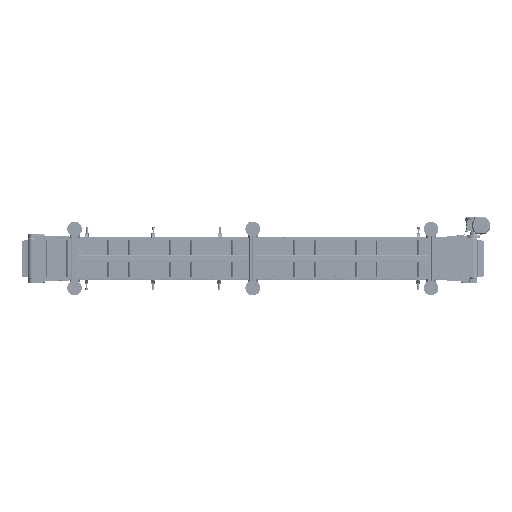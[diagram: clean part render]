
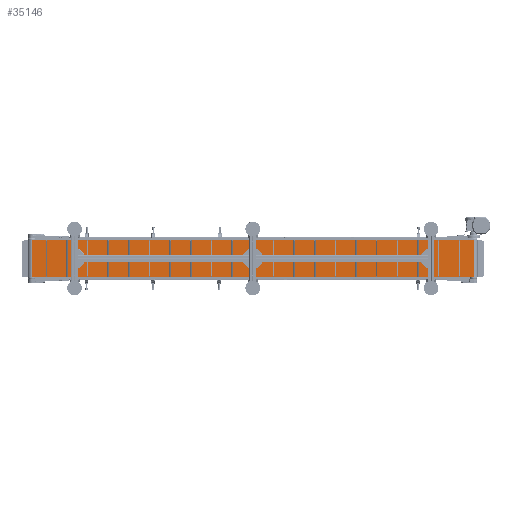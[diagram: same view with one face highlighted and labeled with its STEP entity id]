
A CAD part, front view. The second image highlights one B-rep face of the part: STEP entity #35146.
In plain terms, the highlighted planar face has unit normal (0, -1, 0).
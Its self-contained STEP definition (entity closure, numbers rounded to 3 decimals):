
#175 = DIRECTION ( 'NONE',  ( 1., 0., 0. ) ) ;
#2507 = VERTEX_POINT ( 'NONE', #52290 ) ;
#7039 = ORIENTED_EDGE ( 'NONE', *, *, #291319, .T. ) ;
#11022 = VECTOR ( 'NONE', #26177, 1000. ) ;
#26177 = DIRECTION ( 'NONE',  ( 0., 0., -1. ) ) ;
#29346 = VECTOR ( 'NONE', #175, 1000. ) ;
#35146 = ADVANCED_FACE ( 'NONE', ( #80656 ), #179435, .F. ) ;
#38208 = VERTEX_POINT ( 'NONE', #260245 ) ;
#39372 = ORIENTED_EDGE ( 'NONE', *, *, #194375, .T. ) ;
#50410 = DIRECTION ( 'NONE',  ( 0., 0., -1. ) ) ;
#52290 = CARTESIAN_POINT ( 'NONE',  ( 1500., -27., -125. ) ) ;
#59548 = EDGE_CURVE ( 'NONE', #80081, #38208, #267783, .T. ) ;
#70116 = EDGE_CURVE ( 'NONE', #38208, #2507, #174163, .T. ) ;
#76344 = VECTOR ( 'NONE', #213618, 1000. ) ;
#79074 = DIRECTION ( 'NONE',  ( 0., 0., 1. ) ) ;
#80081 = VERTEX_POINT ( 'NONE', #305011 ) ;
#80656 = FACE_OUTER_BOUND ( 'NONE', #212171, .T. ) ;
#99761 = LINE ( 'NONE', #300470, #261498 ) ;
#113388 = AXIS2_PLACEMENT_3D ( 'NONE', #131690, #208988, #79074 ) ;
#131690 = CARTESIAN_POINT ( 'NONE',  ( -1500., -27., 125. ) ) ;
#135244 = ORIENTED_EDGE ( 'NONE', *, *, #70116, .F. ) ;
#174163 = LINE ( 'NONE', #323875, #11022 ) ;
#179435 = PLANE ( 'NONE',  #113388 ) ;
#194375 = EDGE_CURVE ( 'NONE', #278341, #2507, #199145, .T. ) ;
#199145 = LINE ( 'NONE', #225456, #29346 ) ;
#206758 = CARTESIAN_POINT ( 'NONE',  ( -1500., -27., -125. ) ) ;
#208988 = DIRECTION ( 'NONE',  ( 0., 1., 0. ) ) ;
#212171 = EDGE_LOOP ( 'NONE', ( #39372, #135244, #217204, #7039 ) ) ;
#213618 = DIRECTION ( 'NONE',  ( 1., 0., 0. ) ) ;
#217204 = ORIENTED_EDGE ( 'NONE', *, *, #59548, .F. ) ;
#225456 = CARTESIAN_POINT ( 'NONE',  ( -1500., -27., -125. ) ) ;
#243119 = CARTESIAN_POINT ( 'NONE',  ( -1500., -27., 125. ) ) ;
#260245 = CARTESIAN_POINT ( 'NONE',  ( 1500., -27., 125. ) ) ;
#261498 = VECTOR ( 'NONE', #50410, 1000. ) ;
#267783 = LINE ( 'NONE', #243119, #76344 ) ;
#278341 = VERTEX_POINT ( 'NONE', #206758 ) ;
#291319 = EDGE_CURVE ( 'NONE', #80081, #278341, #99761, .T. ) ;
#300470 = CARTESIAN_POINT ( 'NONE',  ( -1500., -27., 125. ) ) ;
#305011 = CARTESIAN_POINT ( 'NONE',  ( -1500., -27., 125. ) ) ;
#323875 = CARTESIAN_POINT ( 'NONE',  ( 1500., -27., 125. ) ) ;
